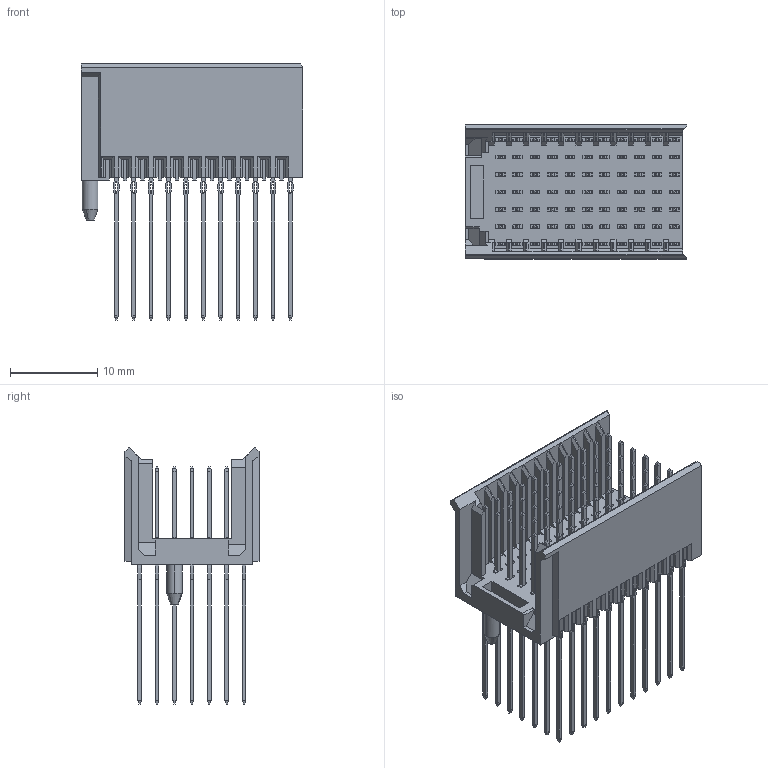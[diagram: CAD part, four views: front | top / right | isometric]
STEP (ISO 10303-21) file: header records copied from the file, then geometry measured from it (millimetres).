
FILE_DESCRIPTION (( 'STEP AP214' ), '1' );
FILE_NAME ('8071CR001007.STEP', '2016-01-22T05:56:15', ( '' ), ( '' ), 'SwSTEP 2.0', 'SolidWorks 2014', '' );
FILE_SCHEMA (( 'AUTOMOTIVE_DESIGN' ));
Length unit declared in the file: millimetre
Products named in the file (1): 8071CR001007
Bounding box: 25.4 x 15.4 x 29.45 mm (x, y, z)
Volume: 1927.9 mm3; surface area: 6032 mm2
Topology: 155 solids, 155 shells, 4030 faces, 11065 edges, 7347 vertices
Faces by surface type: plane 2695, cylinder 1332, cone 3
Entity records: 173436 total; most frequent: CARTESIAN_POINT 25215, ORIENTED_EDGE 22130, DIRECTION 20564, EDGE_CURVE 11065, VECTOR 7780, LINE 7780, VERTEX_POINT 7347, AXIS2_PLACEMENT_3D 6392
